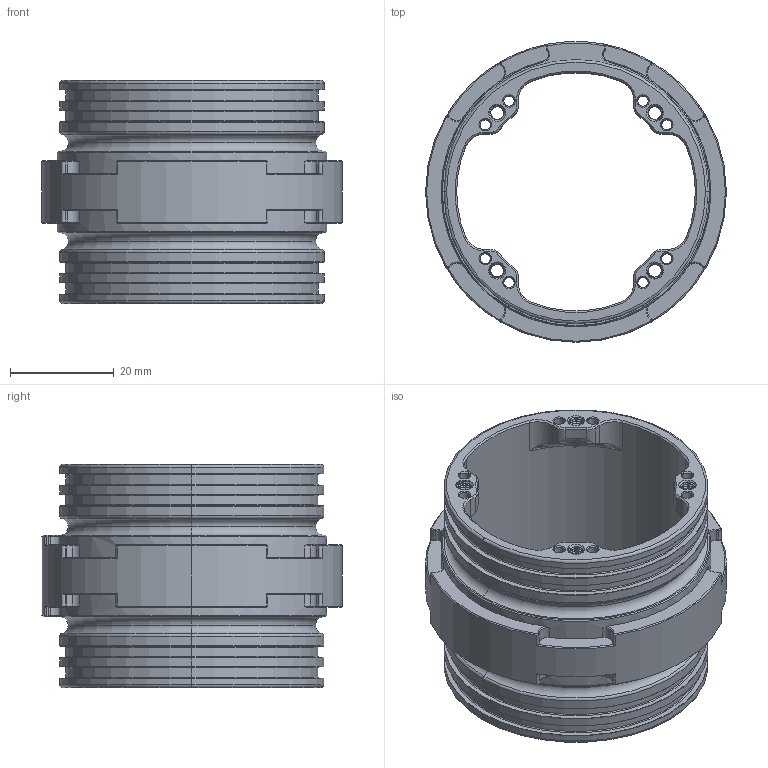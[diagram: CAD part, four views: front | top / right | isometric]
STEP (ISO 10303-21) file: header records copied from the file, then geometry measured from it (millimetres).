
FILE_DESCRIPTION (( 'STEP AP214' ), '1' );
FILE_NAME ('BR-105014_RevB.STEP', '2025-12-16T23:21:43', ( '' ), ( '' ), 'SwSTEP 2.0', 'SolidWorks 2024', '' );
FILE_SCHEMA (( 'AUTOMOTIVE_DESIGN' ));
Length unit declared in the file: millimetre
Products named in the file (1): BR-105014_RevB
Bounding box: 58 x 57.94 x 43 mm (x, y, z)
Volume: 21170.8 mm3; surface area: 18262.1 mm2
Topology: 1 solids, 1 shells, 854 faces, 2296 edges, 1454 vertices
Faces by surface type: cylinder 332, cone 204, bspline 168, plane 102, torus 48
Entity records: 112299 total; most frequent: CARTESIAN_POINT 93515, ORIENTED_EDGE 4592, DIRECTION 3262, EDGE_CURVE 2296, VERTEX_POINT 1454, AXIS2_PLACEMENT_3D 1299, EDGE_LOOP 914, ADVANCED_FACE 854
